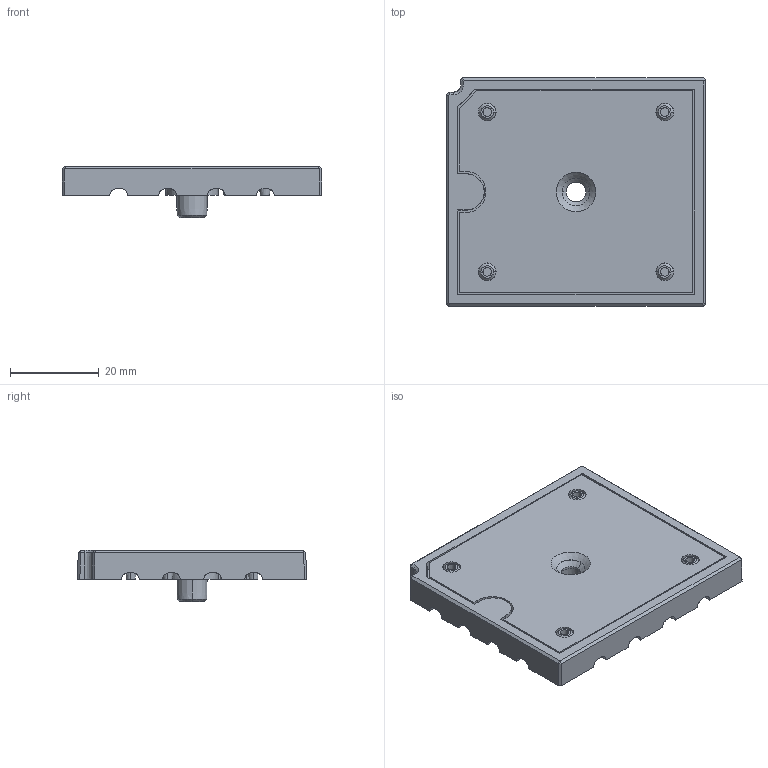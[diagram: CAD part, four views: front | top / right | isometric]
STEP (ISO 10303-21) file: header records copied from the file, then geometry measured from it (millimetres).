
FILE_DESCRIPTION(/* description */ ('Unknown','CAx-IF Rec.Pracs.---Representation and Presentation of Product Manufacturing Information (PMI)---4.0---2014-10-13','CAx-IF Rec.Pracs.---3D Tessellated Geometry---0.4---2014-09-14','2;1'),/* implementation_level */ '2;1');
FILE_NAME(/* name */ 'V23990-K22-T-01.01-27',/* time_stamp */ '2025-10-08T15:24:44+02:00',/* author */ ('Unknown'),/* organization */ ('Unknown'),/* preprocessor_version */ 'ST-DEVELOPER v20',/* originating_system */ 'Solid Edge',/* authorisation */ 'Unknown');
FILE_SCHEMA (('AP242_MANAGED_MODEL_BASED_3D_ENGINEERING_MIM_LF { 1 0 10303 442 1 1 4 }'));
Length unit declared in the file: millimetre
Products named in the file (3): MiniSKiiP 2nd Generation Standard Lid Size 2; 41350180; 41181220
Assembly tree (2 placements, depth 2):
  MiniSKiiP 2nd Generation Standard Lid Size 2
    41350180
    41181220
Bounding box: 58.5 x 51.5 x 11.5 mm (x, y, z)
Volume: 10606.7 mm3; surface area: 14562.7 mm2
Topology: 2 solids, 2 shells, 670 faces, 1585 edges, 963 vertices
Faces by surface type: plane 200, cylinder 140, cone 112, torus 111, bspline 102, sphere 5
Full cylindrical faces by diameter (mm): 4 x4, 12 x1
Entity records: 20902 total; most frequent: CARTESIAN_POINT 6171, ORIENTED_EDGE 3140, DIRECTION 3011, EDGE_CURVE 1570, AXIS2_PLACEMENT_3D 1224, VERTEX_POINT 962, EDGE_LOOP 740, FACE_BOUND 740
